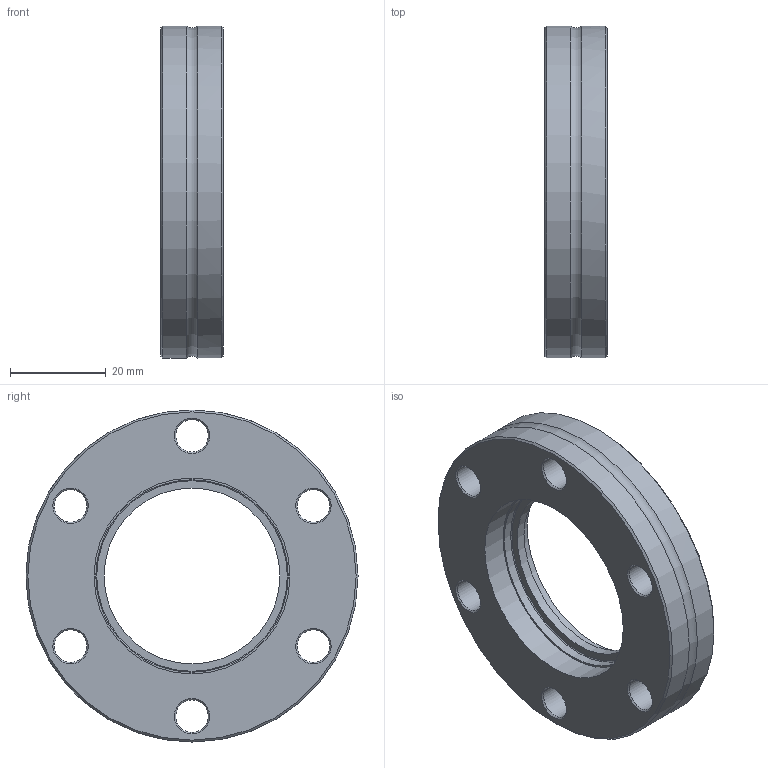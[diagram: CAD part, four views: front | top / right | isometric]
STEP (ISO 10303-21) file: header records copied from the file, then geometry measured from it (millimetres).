
FILE_DESCRIPTION((''),'2;1');
FILE_NAME('W:\13785_CF_Global_Fit_Umsetzung\067_Welding_Flange_Rotable\M213-142.stp','2010-09-01T10:49:42',('KAA'),(''),'Autodesk Inventor 2011','Autodesk Inventor 2011','');
FILE_SCHEMA(('AUTOMOTIVE_DESIGN { 1 0 10303 214 1 1 1 1 }'));
Length unit declared in the file: millimetre
Products named in the file (1): 213-142
Bounding box: 13 x 69.5 x 69.5 mm (x, y, z)
Volume: 29224.2 mm3; surface area: 13096.7 mm2
Topology: 1 solids, 1 shells, 134 faces, 343 edges, 224 vertices
Faces by surface type: plane 53, bspline 35, cylinder 24, cone 18, torus 4
Full cylindrical faces by diameter (mm): 6.8 x6, 36.8 x1, 39.5 x1, 40.3 x1, 41 x1, 48.1 x1, 48.3 x1, 69.5 x2
Entity records: 12993 total; most frequent: CARTESIAN_POINT 10110, ORIENTED_EDGE 602, DIRECTION 456, EDGE_CURVE 301, VERTEX_POINT 216, EDGE_LOOP 195, AXIS2_PLACEMENT_3D 174, FACE_OUTER_BOUND 134
